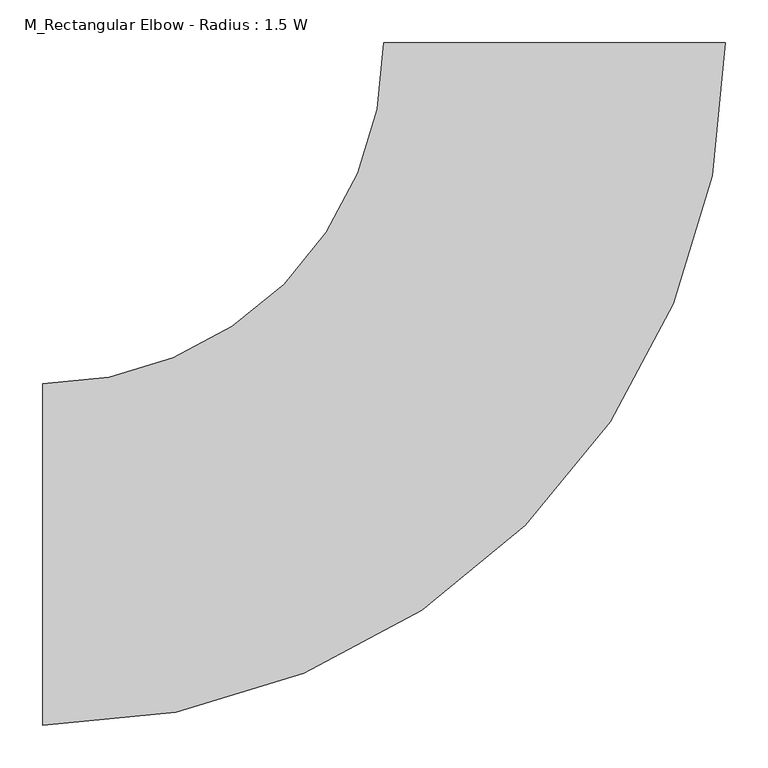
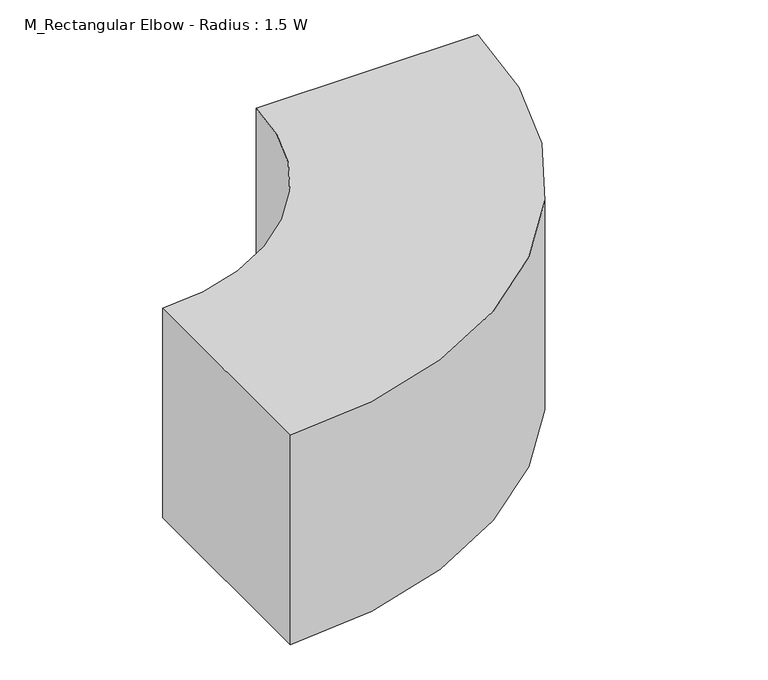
"""IFC4 building model written with IfcOpenShell, lengths in millimetres: duct fitting geometry, M_Rectangular Elbow - Radius : 1.5 W."""

from ifc_helpers import new_model, si_unit, point, frame, frame_2d, origin, place, context, project, spatial, polyline, circle_curve, trimmed, segment, composite_curve, outline, extrude, source, transform, mapped, element, save


def m_rectangular_elbow_radius_1_5_w_2e3e53bc(model_context):
    return source(origin(), model_context, "Body", "SweptSolid", [
        extrude(outline(composite_curve([segment(trimmed(circle_curve(frame_2d((-600.0, 600.0)), 800.0), [point((200.0, 600.0))], [point((-600.0, -200.0))], False, "CARTESIAN"), True, "CONTINUOUS"), segment(polyline([(-600.0, -200.0), (-600.0, 200.0)]), True, "CONTINUOUS"), segment(trimmed(circle_curve(frame_2d((-600.0, 600.0)), 400.0), [point((-600.0, 200.0))], [point((-200.0, 600.0))], True, "CARTESIAN"), True, "CONTINUOUS"), segment(polyline([(-200.0, 600.0), (200.0, 600.0)]), True, "CONTINUOUS")], self_intersect=False)), frame((0.0, 0.0, -200.0), z_axis=(0.0, 0.0, 1.0), x_axis=(1.0, 0.0, 0.0)), (0.0, 0.0, 1.0), 400.0),
        extrude(outline(composite_curve([segment(trimmed(circle_curve(frame_2d((-600.0, 600.0)), 800.0), [point((200.0, 600.0))], [point((-600.0, -200.0))], False, "CARTESIAN"), True, "CONTINUOUS"), segment(polyline([(-600.0, -200.0), (-600.0, 200.0)]), True, "CONTINUOUS"), segment(trimmed(circle_curve(frame_2d((-600.0, 600.0)), 400.0), [point((-600.0, 200.0))], [point((-200.0, 600.0))], True, "CARTESIAN"), True, "CONTINUOUS"), segment(polyline([(-200.0, 600.0), (200.0, 600.0)]), True, "CONTINUOUS")], self_intersect=False)), frame((0.0, 0.0, -200.0), z_axis=(0.0, 0.0, 1.0), x_axis=(1.0, 0.0, 0.0)), (0.0, 0.0, 1.0), 400.0),
        extrude(outline(composite_curve([segment(trimmed(circle_curve(frame_2d((-600.0, 600.0)), 800.0), [point((200.0, 600.0))], [point((-600.0, -200.0))], False, "CARTESIAN"), True, "CONTINUOUS"), segment(polyline([(-600.0, -200.0), (-600.0, 200.0)]), True, "CONTINUOUS"), segment(trimmed(circle_curve(frame_2d((-600.0, 600.0)), 400.0), [point((-600.0, 200.0))], [point((-200.0, 600.0))], True, "CARTESIAN"), True, "CONTINUOUS"), segment(polyline([(-200.0, 600.0), (200.0, 600.0)]), True, "CONTINUOUS")], self_intersect=False)), frame((0.0, 0.0, -200.0), z_axis=(0.0, 0.0, 1.0), x_axis=(1.0, 0.0, 0.0)), (0.0, 0.0, 1.0), 400.0),
    ])


if __name__ == "__main__":
    model = new_model("IFC4")
    model_context = context("Model", 3, world=origin())
    ifc_project = project(units=[si_unit("LENGTHUNIT", "METRE", prefix="MILLI")], contexts=[model_context])
    site = spatial("IfcSite", under=ifc_project)
    building = spatial("IfcBuilding", under=site)
    placement = place(None, origin())
    m_rectangular_elbow_radius_1_5_w_shape = m_rectangular_elbow_radius_1_5_w_2e3e53bc(model_context)
    element("IfcDuctFitting", 1, ObjectType="M_Rectangular Elbow - Radius : 1.5 W", at=placement, inside=building, context=model_context, shape_type="MappedRepresentation", body=[
        mapped(m_rectangular_elbow_radius_1_5_w_shape, transform((0.0, 0.0, 0.0), x_axis=(1.0, 0.0, 0.0), y_axis=(0.0, 1.0, 0.0), z_axis=(0.0, 0.0, 1.0))),
    ])
    save(model, "model.ifc")
